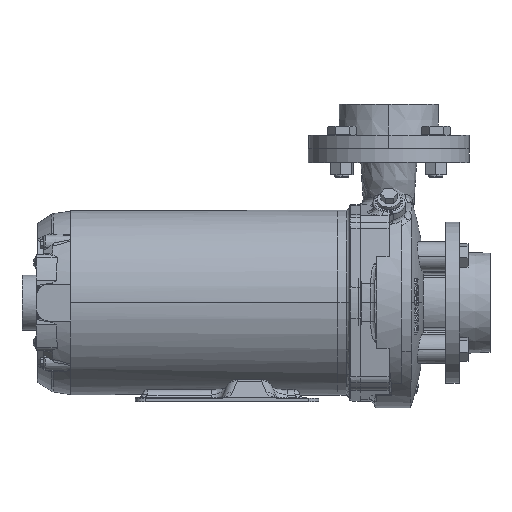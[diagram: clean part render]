
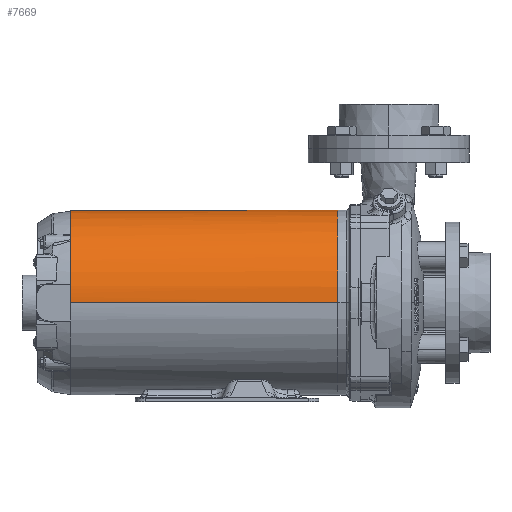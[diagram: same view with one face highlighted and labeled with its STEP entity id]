
A CAD part, top view. The second image highlights one B-rep face of the part: STEP entity #7669.
In plain terms, the highlighted cylindrical face has radius 83.105 mm (diameter 166.209 mm), a partial arc.
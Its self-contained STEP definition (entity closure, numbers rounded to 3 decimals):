
#377 = EDGE_CURVE ( 'NONE', #44095, #31209, #2441, .T. ) ;
#1117 = ORIENTED_EDGE ( 'NONE', *, *, #16266, .T. ) ;
#1245 = CARTESIAN_POINT ( 'NONE',  ( -344.801, 163.797, 914.139 ) ) ;
#2441 = CIRCLE ( 'NONE', #51532, 83.105 ) ;
#2966 = DIRECTION ( 'NONE',  ( 0., 0., 1. ) ) ;
#3159 = DIRECTION ( 'NONE',  ( -1., 0., 0. ) ) ;
#4567 = VERTEX_POINT ( 'NONE', #73164 ) ;
#4674 = CARTESIAN_POINT ( 'NONE',  ( -344.801, 169.049, 1080.183 ) ) ;
#6669 = ORIENTED_EDGE ( 'NONE', *, *, #26200, .F. ) ;
#7221 = VERTEX_POINT ( 'NONE', #33197 ) ;
#7511 = DIRECTION ( 'NONE',  ( 1., 0., 0. ) ) ;
#7669 = ADVANCED_FACE ( 'NONE', ( #10059 ), #33471, .T. ) ;
#8370 = CARTESIAN_POINT ( 'NONE',  ( -344.801, 163.797, 997.244 ) ) ;
#9079 = VECTOR ( 'NONE', #7511, 1000. ) ;
#9858 = CARTESIAN_POINT ( 'NONE',  ( -344.801, 223.134, 939.059 ) ) ;
#10059 = FACE_OUTER_BOUND ( 'NONE', #41139, .T. ) ;
#10371 = EDGE_CURVE ( 'NONE', #7221, #44095, #17002, .T. ) ;
#11107 = VECTOR ( 'NONE', #22626, 1000. ) ;
#13652 = DIRECTION ( 'NONE',  ( -1., 0., 0. ) ) ;
#14334 = CARTESIAN_POINT ( 'NONE',  ( -344.801, 163.797, 997.244 ) ) ;
#15428 = DIRECTION ( 'NONE',  ( 0., 0., -1. ) ) ;
#16266 = EDGE_CURVE ( 'NONE', #64345, #70224, #52581, .T. ) ;
#16760 = AXIS2_PLACEMENT_3D ( 'NONE', #20066, #73085, #15428 ) ;
#17002 = CIRCLE ( 'NONE', #48851, 83.105 ) ;
#18294 = LINE ( 'NONE', #24041, #11107 ) ;
#18422 = EDGE_CURVE ( 'NONE', #24803, #38223, #72156, .T. ) ;
#18976 = DIRECTION ( 'NONE',  ( -1., 0., 0. ) ) ;
#19675 = ORIENTED_EDGE ( 'NONE', *, *, #64132, .F. ) ;
#20066 = CARTESIAN_POINT ( 'NONE',  ( -344.801, 163.797, 997.244 ) ) ;
#20165 = LINE ( 'NONE', #43587, #9079 ) ;
#20450 = DIRECTION ( 'NONE',  ( 0., 0., 1. ) ) ;
#21340 = CARTESIAN_POINT ( 'NONE',  ( -104.801, 163.797, 914.139 ) ) ;
#22039 = CIRCLE ( 'NONE', #36782, 83.105 ) ;
#22474 = EDGE_CURVE ( 'NONE', #4567, #25873, #50547, .T. ) ;
#22626 = DIRECTION ( 'NONE',  ( 1., 0., 0. ) ) ;
#24041 = CARTESIAN_POINT ( 'NONE',  ( -344.801, 163.797, 914.139 ) ) ;
#24803 = VERTEX_POINT ( 'NONE', #72456 ) ;
#25382 = CARTESIAN_POINT ( 'NONE',  ( -344.801, 223.134, 1055.43 ) ) ;
#25873 = VERTEX_POINT ( 'NONE', #4674 ) ;
#26200 = EDGE_CURVE ( 'NONE', #38223, #70224, #18294, .T. ) ;
#26624 = DIRECTION ( 'NONE',  ( 0., 0., 1. ) ) ;
#27617 = CARTESIAN_POINT ( 'NONE',  ( -344.801, 179.086, 1078.93 ) ) ;
#30101 = AXIS2_PLACEMENT_3D ( 'NONE', #58499, #67305, #20450 ) ;
#30667 = ORIENTED_EDGE ( 'NONE', *, *, #22474, .F. ) ;
#31209 = VERTEX_POINT ( 'NONE', #9858 ) ;
#31403 = ORIENTED_EDGE ( 'NONE', *, *, #72971, .F. ) ;
#31788 = DIRECTION ( 'NONE',  ( -1., 0., 0. ) ) ;
#32003 = DIRECTION ( 'NONE',  ( 0., 0., 1. ) ) ;
#32324 = CIRCLE ( 'NONE', #47029, 83.105 ) ;
#33039 = ORIENTED_EDGE ( 'NONE', *, *, #34545, .T. ) ;
#33161 = DIRECTION ( 'NONE',  ( -1., 0., 0. ) ) ;
#33197 = CARTESIAN_POINT ( 'NONE',  ( -344.801, 221.983, 1056.581 ) ) ;
#33471 = CYLINDRICAL_SURFACE ( 'NONE', #16760, 83.105 ) ;
#33672 = DIRECTION ( 'NONE',  ( -1., 0., 0. ) ) ;
#34545 = EDGE_CURVE ( 'NONE', #4567, #64345, #20165, .T. ) ;
#36782 = AXIS2_PLACEMENT_3D ( 'NONE', #8370, #31788, #60601 ) ;
#38223 = VERTEX_POINT ( 'NONE', #1245 ) ;
#39736 = VERTEX_POINT ( 'NONE', #27617 ) ;
#40096 = ORIENTED_EDGE ( 'NONE', *, *, #41662, .F. ) ;
#41139 = EDGE_LOOP ( 'NONE', ( #30667, #33039, #1117, #6669, #58788, #40096, #46312, #57685, #19675, #31403 ) ) ;
#41662 = EDGE_CURVE ( 'NONE', #31209, #24803, #22039, .T. ) ;
#41885 = CARTESIAN_POINT ( 'NONE',  ( -104.801, 163.797, 1080.349 ) ) ;
#42918 = CARTESIAN_POINT ( 'NONE',  ( -344.801, 163.797, 997.244 ) ) ;
#43502 = DIRECTION ( 'NONE',  ( 0., 0., 1. ) ) ;
#43587 = CARTESIAN_POINT ( 'NONE',  ( -344.801, 163.797, 1080.349 ) ) ;
#44095 = VERTEX_POINT ( 'NONE', #25382 ) ;
#46312 = ORIENTED_EDGE ( 'NONE', *, *, #377, .F. ) ;
#47029 = AXIS2_PLACEMENT_3D ( 'NONE', #63114, #33161, #26624 ) ;
#48851 = AXIS2_PLACEMENT_3D ( 'NONE', #42918, #73275, #66359 ) ;
#49688 = CIRCLE ( 'NONE', #30101, 83.105 ) ;
#50112 = AXIS2_PLACEMENT_3D ( 'NONE', #14334, #18976, #32003 ) ;
#50547 = CIRCLE ( 'NONE', #54194, 83.105 ) ;
#51532 = AXIS2_PLACEMENT_3D ( 'NONE', #63264, #33672, #2966 ) ;
#52581 = CIRCLE ( 'NONE', #59975, 83.105 ) ;
#54194 = AXIS2_PLACEMENT_3D ( 'NONE', #73102, #3159, #43502 ) ;
#57685 = ORIENTED_EDGE ( 'NONE', *, *, #10371, .F. ) ;
#58499 = CARTESIAN_POINT ( 'NONE',  ( -344.801, 163.797, 997.244 ) ) ;
#58788 = ORIENTED_EDGE ( 'NONE', *, *, #18422, .F. ) ;
#59975 = AXIS2_PLACEMENT_3D ( 'NONE', #60894, #13652, #61279 ) ;
#60601 = DIRECTION ( 'NONE',  ( 0., 0., 1. ) ) ;
#60894 = CARTESIAN_POINT ( 'NONE',  ( -104.801, 163.797, 997.244 ) ) ;
#61279 = DIRECTION ( 'NONE',  ( 0., 0., 1. ) ) ;
#63114 = CARTESIAN_POINT ( 'NONE',  ( -344.801, 163.797, 997.244 ) ) ;
#63264 = CARTESIAN_POINT ( 'NONE',  ( -344.801, 163.797, 997.244 ) ) ;
#64132 = EDGE_CURVE ( 'NONE', #39736, #7221, #49688, .T. ) ;
#64345 = VERTEX_POINT ( 'NONE', #41885 ) ;
#66359 = DIRECTION ( 'NONE',  ( 0., 0., 1. ) ) ;
#67305 = DIRECTION ( 'NONE',  ( -1., 0., 0. ) ) ;
#70224 = VERTEX_POINT ( 'NONE', #21340 ) ;
#72156 = CIRCLE ( 'NONE', #50112, 83.105 ) ;
#72456 = CARTESIAN_POINT ( 'NONE',  ( -344.801, 221.983, 937.907 ) ) ;
#72971 = EDGE_CURVE ( 'NONE', #25873, #39736, #32324, .T. ) ;
#73085 = DIRECTION ( 'NONE',  ( 1., 0., 0. ) ) ;
#73102 = CARTESIAN_POINT ( 'NONE',  ( -344.801, 163.797, 997.244 ) ) ;
#73164 = CARTESIAN_POINT ( 'NONE',  ( -344.801, 163.797, 1080.349 ) ) ;
#73275 = DIRECTION ( 'NONE',  ( -1., 0., 0. ) ) ;
